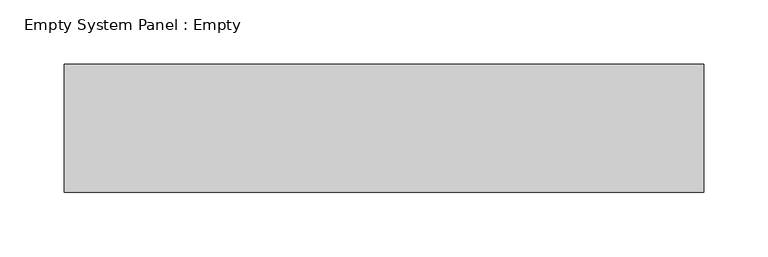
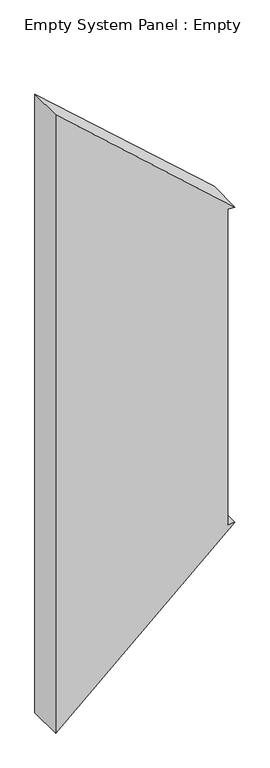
"""IFC4 building model written with IfcOpenShell, lengths in millimetres: plate geometry, Empty System Panel : Empty."""

from ifc_helpers import new_model, si_unit, frame, origin, place, context, project, spatial, polyline, outline, extrude, source, transform, mapped, element, save


def empty_system_panel_empty_ecefbdfb(model_context):
    return source(origin(), model_context, "Body", "SweptSolid", [
        extrude(outline(polyline([(0.0, -249.7473037), (446.8059677, 249.7473037), (446.8059677, 229.7473037), (1376.1985475, 229.7473037), (1376.1985475, 249.7473037), (1823.0045151, -249.7473037), (0.0, -249.7473037)])), frame((0.0, -50.0, 0.0), z_axis=(0.0, 1.0, 0.0), x_axis=(0.0, 0.0, 1.0)), (0.0, 0.0, 1.0), 100.0),
    ])


if __name__ == "__main__":
    model = new_model("IFC4")
    model_context = context("Model", 3, world=origin())
    ifc_project = project(units=[si_unit("LENGTHUNIT", "METRE", prefix="MILLI")], contexts=[model_context])
    site = spatial("IfcSite", under=ifc_project)
    building = spatial("IfcBuilding", under=site)
    placement = place(None, origin())
    empty_system_panel_empty_shape = empty_system_panel_empty_ecefbdfb(model_context)
    element("IfcPlate", 1, ObjectType="Empty System Panel : Empty", at=placement, inside=building, context=model_context, shape_type="MappedRepresentation", body=[
        mapped(empty_system_panel_empty_shape, transform((0.0, 0.0, 0.0), x_axis=(1.0, 0.0, 0.0), y_axis=(0.0, 1.0, 0.0), z_axis=(0.0, 0.0, 1.0))),
    ])
    save(model, "model.ifc")
